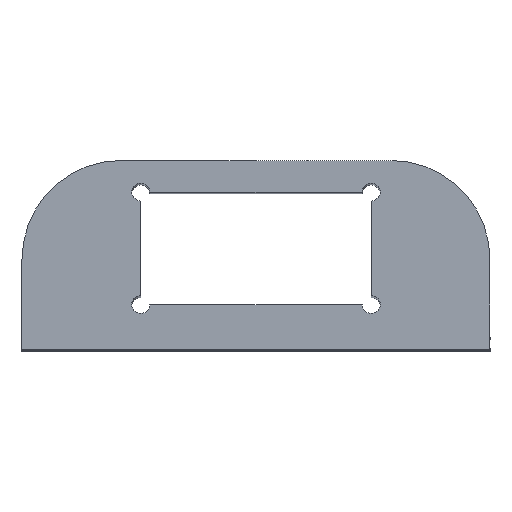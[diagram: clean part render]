
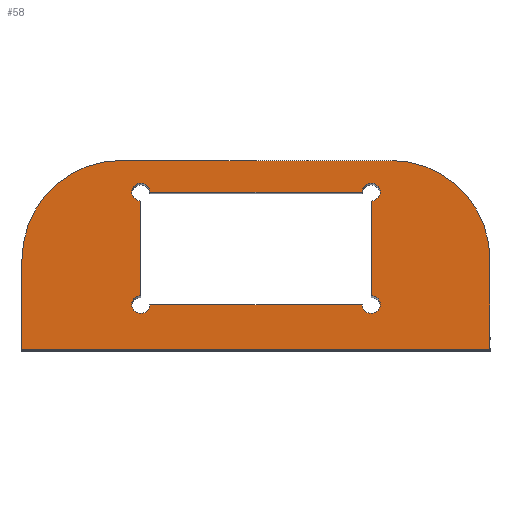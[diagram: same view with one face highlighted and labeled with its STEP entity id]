
A CAD part, top view. The second image highlights one B-rep face of the part: STEP entity #58.
In plain terms, the highlighted planar face has unit normal (0, 0, 1).
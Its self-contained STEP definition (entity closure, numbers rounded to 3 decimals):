
#58=ADVANCED_FACE('',(#472,#474),#476,.F.);
#472=FACE_BOUND('',#473,.T.);
#473=EDGE_LOOP('',(#818,#819,#820,#821,#822,#823));
#474=FACE_BOUND('',#475,.T.);
#475=EDGE_LOOP('',(#824,#825,#826,#827,#828,#829,#830,#831));
#476=PLANE('',#477);
#477=AXIS2_PLACEMENT_3D('',#478,#479,#480);
#478=CARTESIAN_POINT('',(-52.,45.,266.));
#479=DIRECTION('',(0.,0.,-1.));
#480=DIRECTION('',(1.,0.,0.));
#818=ORIENTED_EDGE('',*,*,#1042,.F.);
#819=ORIENTED_EDGE('',*,*,#1043,.F.);
#820=ORIENTED_EDGE('',*,*,#1044,.F.);
#821=ORIENTED_EDGE('',*,*,#1045,.F.);
#822=ORIENTED_EDGE('',*,*,#1046,.F.);
#823=ORIENTED_EDGE('',*,*,#1047,.F.);
#824=ORIENTED_EDGE('',*,*,#1048,.T.);
#825=ORIENTED_EDGE('',*,*,#1049,.F.);
#826=ORIENTED_EDGE('',*,*,#1050,.T.);
#827=ORIENTED_EDGE('',*,*,#1051,.F.);
#828=ORIENTED_EDGE('',*,*,#1052,.T.);
#829=ORIENTED_EDGE('',*,*,#1053,.F.);
#830=ORIENTED_EDGE('',*,*,#1054,.T.);
#831=ORIENTED_EDGE('',*,*,#1055,.F.);
#1042=EDGE_CURVE('',#1154,#1155,#1156,.F.);
#1043=EDGE_CURVE('',#1157,#1154,#1158,.F.);
#1044=EDGE_CURVE('',#1159,#1157,#1160,.F.);
#1045=EDGE_CURVE('',#1161,#1159,#1162,.F.);
#1046=EDGE_CURVE('',#1163,#1161,#1164,.F.);
#1047=EDGE_CURVE('',#1155,#1163,#1165,.F.);
#1048=EDGE_CURVE('',#1166,#1167,#1168,.F.);
#1049=EDGE_CURVE('',#1169,#1167,#1170,.F.);
#1050=EDGE_CURVE('',#1169,#1171,#1172,.F.);
#1051=EDGE_CURVE('',#1173,#1171,#1174,.F.);
#1052=EDGE_CURVE('',#1173,#1175,#1176,.F.);
#1053=EDGE_CURVE('',#1177,#1175,#1178,.T.);
#1054=EDGE_CURVE('',#1177,#1179,#1180,.F.);
#1055=EDGE_CURVE('',#1166,#1179,#1181,.F.);
#1154=VERTEX_POINT('',#1344);
#1155=VERTEX_POINT('',#1345);
#1156=LINE('',#1346,#1347);
#1157=VERTEX_POINT('',#1349);
#1158=CIRCLE('',#1350,11.);
#1159=VERTEX_POINT('',#1354);
#1160=LINE('',#1355,#1356);
#1161=VERTEX_POINT('',#1358);
#1162=LINE('',#1359,#1360);
#1163=VERTEX_POINT('',#1362);
#1164=LINE('',#1363,#1364);
#1165=CIRCLE('',#1366,11.);
#1166=VERTEX_POINT('',#1370);
#1167=VERTEX_POINT('',#1371);
#1168=CIRCLE('',#1372,1.);
#1169=VERTEX_POINT('',#1376);
#1170=LINE('',#1377,#1378);
#1171=VERTEX_POINT('',#1380);
#1172=CIRCLE('',#1381,1.);
#1173=VERTEX_POINT('',#1385);
#1174=LINE('',#1386,#1387);
#1175=VERTEX_POINT('',#1389);
#1176=CIRCLE('',#1390,1.);
#1177=VERTEX_POINT('',#1394);
#1178=LINE('',#1395,#1396);
#1179=VERTEX_POINT('',#1398);
#1180=CIRCLE('',#1399,1.);
#1181=LINE('',#1403,#1404);
#1344=CARTESIAN_POINT('',(-41.,16.,266.));
#1345=CARTESIAN_POINT('',(-11.,16.,266.));
#1346=CARTESIAN_POINT('',(-11.,16.,266.));
#1347=VECTOR('',#1348,1.);
#1348=DIRECTION('',(-1.,0.,0.));
#1349=CARTESIAN_POINT('',(-52.,5.,266.));
#1350=AXIS2_PLACEMENT_3D('',#1351,#1352,#1353);
#1351=CARTESIAN_POINT('',(-41.,5.,266.));
#1352=DIRECTION('',(0.,-0.,1.));
#1353=DIRECTION('',(0.,1.,0.));
#1354=CARTESIAN_POINT('',(-52.,-5.,266.));
#1355=CARTESIAN_POINT('',(-52.,5.,266.));
#1356=VECTOR('',#1357,1.);
#1357=DIRECTION('',(0.,-1.,0.));
#1358=CARTESIAN_POINT('',(0.,-5.,266.));
#1359=CARTESIAN_POINT('',(-52.,-5.,266.));
#1360=VECTOR('',#1361,1.);
#1361=DIRECTION('',(1.,0.,0.));
#1362=CARTESIAN_POINT('',(0.,5.,266.));
#1363=CARTESIAN_POINT('',(0.,-5.,266.));
#1364=VECTOR('',#1365,1.);
#1365=DIRECTION('',(0.,1.,0.));
#1366=AXIS2_PLACEMENT_3D('',#1367,#1368,#1369);
#1367=CARTESIAN_POINT('',(-11.,5.,266.));
#1368=DIRECTION('',(0.,0.,1.));
#1369=DIRECTION('',(1.,0.,0.));
#1370=CARTESIAN_POINT('',(-38.8,11.5,266.));
#1371=CARTESIAN_POINT('',(-37.8,12.5,266.));
#1372=AXIS2_PLACEMENT_3D('',#1373,#1374,#1375);
#1373=CARTESIAN_POINT('',(-38.8,12.5,266.));
#1374=DIRECTION('',(0.,0.,1.));
#1375=DIRECTION('',(1.,0.,0.));
#1376=CARTESIAN_POINT('',(-14.2,12.5,266.));
#1377=CARTESIAN_POINT('',(-37.8,12.5,266.));
#1378=VECTOR('',#1379,1.);
#1379=DIRECTION('',(1.,0.,0.));
#1380=CARTESIAN_POINT('',(-13.2,11.5,266.));
#1381=AXIS2_PLACEMENT_3D('',#1382,#1383,#1384);
#1382=CARTESIAN_POINT('',(-13.2,12.5,266.));
#1383=DIRECTION('',(0.,0.,1.));
#1384=DIRECTION('',(0.,-1.,0.));
#1385=CARTESIAN_POINT('',(-13.2,1.,266.));
#1386=CARTESIAN_POINT('',(-13.2,11.5,266.));
#1387=VECTOR('',#1388,1.);
#1388=DIRECTION('',(0.,-1.,0.));
#1389=CARTESIAN_POINT('',(-14.2,0.,266.));
#1390=AXIS2_PLACEMENT_3D('',#1391,#1392,#1393);
#1391=CARTESIAN_POINT('',(-13.2,0.,266.));
#1392=DIRECTION('',(0.,0.,1.));
#1393=DIRECTION('',(-1.,0.,0.));
#1394=CARTESIAN_POINT('',(-37.8,0.,266.));
#1395=CARTESIAN_POINT('',(-37.8,0.,266.));
#1396=VECTOR('',#1397,1.);
#1397=DIRECTION('',(1.,0.,0.));
#1398=CARTESIAN_POINT('',(-38.8,1.,266.));
#1399=AXIS2_PLACEMENT_3D('',#1400,#1401,#1402);
#1400=CARTESIAN_POINT('',(-38.8,0.,266.));
#1401=DIRECTION('',(0.,0.,1.));
#1402=DIRECTION('',(0.,1.,0.));
#1403=CARTESIAN_POINT('',(-38.8,1.,266.));
#1404=VECTOR('',#1405,1.);
#1405=DIRECTION('',(0.,1.,0.));
